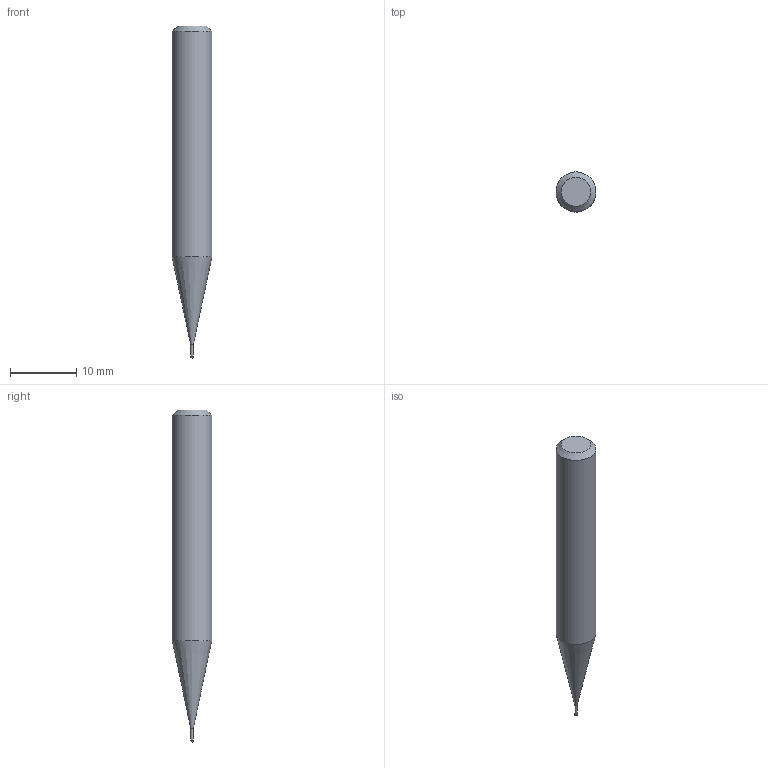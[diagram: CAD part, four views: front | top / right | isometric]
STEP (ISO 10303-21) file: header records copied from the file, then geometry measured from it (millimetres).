
FILE_DESCRIPTION((''),'2;1');
FILE_NAME('C:\Users\nsx150\AppData\Local\Temp\Mastercam 2021\ARV7HD45SN\TEMP.step','2023-06-13T16:32:56',(''),(''),'STEP Write','Mastercam 2021 ... CNC Software, Inc.','');
FILE_SCHEMA(('AUTOMOTIVE_DESIGN'));
Length unit declared in the file: millimetre
Products named in the file (1): None
Bounding box: 6 x 6 x 50 mm (x, y, z)
Volume: 1110.4 mm3; surface area: 811.8 mm2
Topology: 2 solids, 2 shells, 9 faces, 14 edges, 8 vertices
Faces by surface type: plane 3, cylinder 3, cone 2, sphere 1
Full cylindrical faces by diameter (mm): 0.37 x1, 0.4 x1, 6 x1
Entity records: 211 total; most frequent: DIRECTION 36, CARTESIAN_POINT 25, AXIS2_PLACEMENT_3D 18, ORIENTED_EDGE 14, EDGE_LOOP 14, STYLED_ITEM 12, ADVANCED_FACE 9, FACE_BOUND 8
